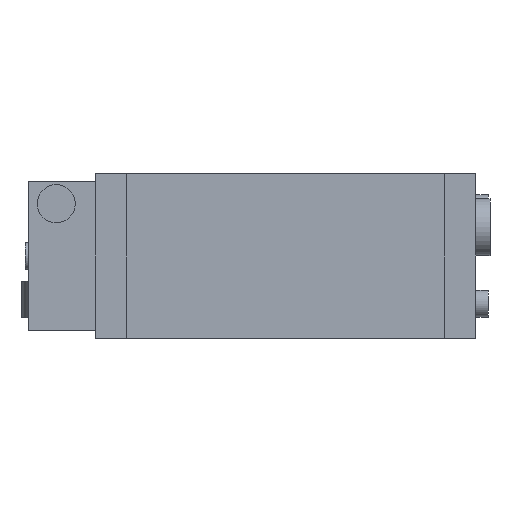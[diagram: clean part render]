
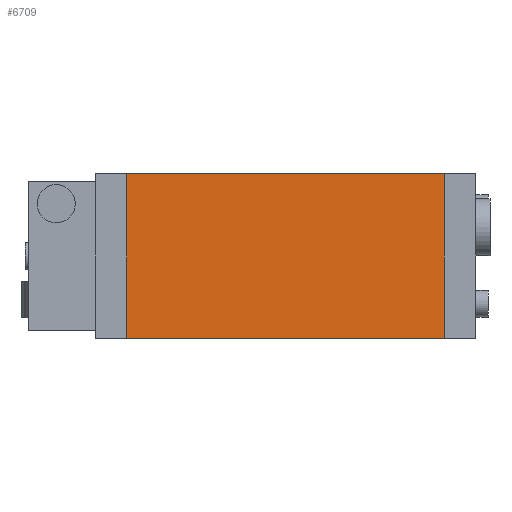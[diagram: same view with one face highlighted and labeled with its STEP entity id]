
A CAD part, front view. The second image highlights one B-rep face of the part: STEP entity #6709.
In plain terms, the highlighted planar face has unit normal (0, -1, 0).
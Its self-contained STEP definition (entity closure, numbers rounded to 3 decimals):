
#6604=CARTESIAN_POINT('',(50.,-253.0,26.));
#6605=VERTEX_POINT('',#6604);
#6606=CARTESIAN_POINT('',(50.,-253.0,-26.));
#6607=VERTEX_POINT('',#6606);
#6608=CARTESIAN_POINT('',(50.,-253.0,26.));
#6609=DIRECTION('',(0.0,0.0,-1.0));
#6610=VECTOR('',#6609,52.);
#6611=LINE('',#6608,#6610);
#6612=EDGE_CURVE('',#6605,#6607,#6611,.T.);
#6635=CARTESIAN_POINT('',(-50.,-253.0,-26.));
#6636=VERTEX_POINT('',#6635);
#6637=CARTESIAN_POINT('',(-50.,-253.0,-26.));
#6638=DIRECTION('',(1.0,0.0,0.0));
#6639=VECTOR('',#6638,100.);
#6640=LINE('',#6637,#6639);
#6641=EDGE_CURVE('',#6636,#6607,#6640,.T.);
#6659=CARTESIAN_POINT('',(-50.,-253.0,26.));
#6660=VERTEX_POINT('',#6659);
#6661=CARTESIAN_POINT('',(-50.,-253.0,-26.));
#6662=DIRECTION('',(0.0,0.0,1.0));
#6663=VECTOR('',#6662,52.0);
#6664=LINE('',#6661,#6663);
#6665=EDGE_CURVE('',#6636,#6660,#6664,.T.);
#6686=CARTESIAN_POINT('',(50.,-253.0,26.));
#6687=DIRECTION('',(-1.0,0.0,0.0));
#6688=VECTOR('',#6687,100.);
#6689=LINE('',#6686,#6688);
#6690=EDGE_CURVE('',#6605,#6660,#6689,.T.);
#6698=CARTESIAN_POINT('',(50.,-253.0,-26.));
#6699=DIRECTION('',(0.0,-1.0,0.0));
#6700=DIRECTION('',(1.0,0.0,0.0));
#6701=AXIS2_PLACEMENT_3D('',#6698,#6699,#6700);
#6702=PLANE('',#6701);
#6703=ORIENTED_EDGE('',*,*,#6612,.F.);
#6704=ORIENTED_EDGE('',*,*,#6690,.T.);
#6705=ORIENTED_EDGE('',*,*,#6665,.F.);
#6706=ORIENTED_EDGE('',*,*,#6641,.T.);
#6707=EDGE_LOOP('',(#6703,#6704,#6705,#6706));
#6708=FACE_OUTER_BOUND('',#6707,.T.);
#6709=ADVANCED_FACE('',(#6708),#6702,.T.);
